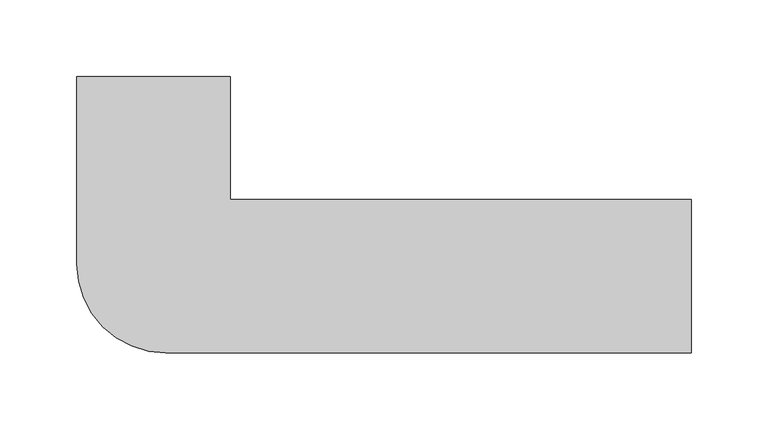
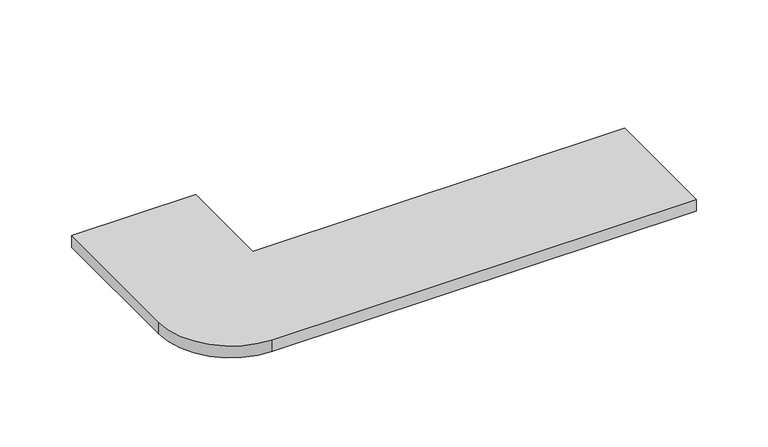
"""IFC4 building model written with IfcOpenShell, lengths in millimetres: proxy geometry, Zanquin Recto 42.3x17.5 : Exagres_Roca_Polar_Zanquin_Rect_Der."""

import ifcopenshell
import ifcopenshell.guid

model = None  # the IFC model being written
_history = None  # IfcOwnerHistory: only IFC2X3 demands one
_inside = {}  # id of a spatial element -> (the spatial element, [elements in it])
_under = {}  # id of a project, library or spatial element -> (it, [spatial elements below it])
_declared = {}  # id of a project -> (the project, [libraries it declares])
_typed = {}  # id of a type object -> (the type object, [elements of that type])
_made_of = {}  # id of a material, layer set ... -> (it, [elements and type objects made of it])


def new_model(schema):
    """Start an empty IFC model of exactly this schema.

    Asked for "IFC4X3", IfcOpenShell would pick the latest addendum, in which some entities
    have other attributes; the version numbers below select the first issue.
    IFC2X3 requires an IfcOwnerHistory on every rooted entity: one is made here for all.
    """
    global model, _history
    if schema == "IFC4X3":
        model = ifcopenshell.file(schema_version=(4, 3, 0, 0))
    else:
        model = ifcopenshell.file(schema=schema)
    _inside.clear()
    _under.clear()
    _declared.clear()
    _typed.clear()
    _made_of.clear()
    _history = None
    if model.schema == "IFC2X3":
        org = make("IfcOrganization", Name="unknown")
        user = make(
            "IfcPersonAndOrganization",
            ThePerson=make("IfcPerson", FamilyName="unknown"),
            TheOrganization=org,
        )
        app = make(
            "IfcApplication",
            ApplicationDeveloper=org,
            Version="unknown",
            ApplicationFullName="unknown",
            ApplicationIdentifier="unknown",
        )
        _history = make(
            "IfcOwnerHistory",
            OwningUser=user,
            OwningApplication=app,
            ChangeAction="ADDED",
            CreationDate=0,
        )
    return model


def make(cls, **values):
    """One entity of the class cls with the attributes given. An attribute that is None is left unset."""
    return model.create_entity(
        cls, **{name: value for name, value in values.items() if value is not None}
    )


def rooted(cls, **values):
    """An entity with a GlobalId (a new one), such as an element, a storey or a relation."""
    return make(cls, GlobalId=ifcopenshell.guid.new(), OwnerHistory=_history, **values)


def si_unit(unit_type, name, prefix=None):
    """IfcSIUnit, for example si_unit("LENGTHUNIT", "METRE", prefix="MILLI")."""
    return make("IfcSIUnit", UnitType=unit_type, Prefix=prefix, Name=name)


def assignment(units):
    """IfcUnitAssignment: the units of a project."""
    return None if units is None else make("IfcUnitAssignment", Units=units)


def point(xyz):
    """IfcCartesianPoint."""
    return None if xyz is None else make("IfcCartesianPoint", Coordinates=xyz)


def direction(xyz):
    """IfcDirection."""
    return None if xyz is None else make("IfcDirection", DirectionRatios=xyz)


def frame(location, z_axis=None, x_axis=None):
    """IfcAxis2Placement3D, a coordinate frame: its origin and axes. An axis left out is left unset."""
    return make(
        "IfcAxis2Placement3D",
        Location=point(location),
        Axis=direction(z_axis),
        RefDirection=direction(x_axis),
    )


def frame_2d(location, x_axis=None):
    """IfcAxis2Placement2D, a coordinate frame in the plane: its origin and x axis."""
    return make(
        "IfcAxis2Placement2D", Location=point(location), RefDirection=direction(x_axis)
    )


def origin():
    """The frame at (0, 0, 0) with its axes left unset."""
    return frame((0.0, 0.0, 0.0))


def origin_with_axes():
    """The frame at (0, 0, 0) with the z axis (0, 0, 1) and the x axis (1, 0, 0) written out."""
    return frame((0.0, 0.0, 0.0), z_axis=(0.0, 0.0, 1.0), x_axis=(1.0, 0.0, 0.0))


def place(relative_to, where):
    """IfcLocalPlacement: puts the frame where relative to a parent placement (None: the world)."""
    return make(
        "IfcLocalPlacement", PlacementRelTo=relative_to, RelativePlacement=where
    )


def context(
    kind, dimensions, precision=None, world=None, true_north=None, identifier=None
):
    """IfcGeometricRepresentationContext, for example the 3D "Model" context."""
    return make(
        "IfcGeometricRepresentationContext",
        ContextIdentifier=identifier,
        ContextType=kind,
        CoordinateSpaceDimension=dimensions,
        Precision=precision,
        WorldCoordinateSystem=world,
        TrueNorth=true_north,
    )


def project(units=None, contexts=None):
    """IfcProject with its units and contexts."""
    return rooted(
        "IfcProject",
        Name="project",
        RepresentationContexts=contexts,
        UnitsInContext=assignment(units),
    )


def spatial(cls, under=None, at=None, **own):
    """A site, building, storey or space (cls), placed at a placement, below another one or the project."""
    s = rooted(cls, ObjectPlacement=at, **own)
    if under is not None:
        _under.setdefault(under.id(), (under, []))[1].append(s)
    return s


def polyline(points):
    """IfcPolyline through the points."""
    return make("IfcPolyline", Points=[point(p) for p in points])


def circle_curve(where, radius):
    """IfcCircle in the frame where."""
    return make("IfcCircle", Position=where, Radius=radius)


def trimmed(basis, trim1, trim2, sense, master):
    """IfcTrimmedCurve: the piece of a basis curve between two trims."""
    return make(
        "IfcTrimmedCurve",
        BasisCurve=basis,
        Trim1=trim1,
        Trim2=trim2,
        SenseAgreement=sense,
        MasterRepresentation=master,
    )


def segment(curve, same_sense, transition):
    """IfcCompositeCurveSegment."""
    return make(
        "IfcCompositeCurveSegment",
        Transition=transition,
        SameSense=same_sense,
        ParentCurve=curve,
    )


def composite_curve(segments, self_intersect=None):
    """IfcCompositeCurve: segments joined end to end."""
    return make("IfcCompositeCurve", Segments=segments, SelfIntersect=self_intersect)


def outline(outer, holes=None, kind="AREA"):
    """IfcArbitraryClosedProfileDef: a profile drawn as a closed curve; with holes, ...WithVoids."""
    if holes is None:
        return make("IfcArbitraryClosedProfileDef", ProfileType=kind, OuterCurve=outer)
    return make(
        "IfcArbitraryProfileDefWithVoids",
        ProfileType=kind,
        OuterCurve=outer,
        InnerCurves=holes,
    )


def extrude(swept, where, along, depth):
    """IfcExtrudedAreaSolid: the profile swept, set in the frame where, extruded along a direction by depth."""
    return make(
        "IfcExtrudedAreaSolid",
        SweptArea=swept,
        Position=where,
        ExtrudedDirection=direction(along),
        Depth=depth,
    )


def shape(context_of_items, identifier, shape_type, items):
    """IfcShapeRepresentation: the items that make up one representation, for example the "Body"."""
    return make(
        "IfcShapeRepresentation",
        ContextOfItems=context_of_items,
        RepresentationIdentifier=identifier,
        RepresentationType=shape_type,
        Items=items,
    )


def source(mapping_origin, context_of_items, identifier, shape_type, items):
    """IfcRepresentationMap: a shape defined once, which mapped items show again and again."""
    return make(
        "IfcRepresentationMap",
        MappingOrigin=mapping_origin,
        MappedRepresentation=shape(context_of_items, identifier, shape_type, items),
    )


def transform(
    local_origin,
    x_axis=None,
    y_axis=None,
    z_axis=None,
    scale=None,
    scale2=None,
    scale3=None,
    uniform=True,
):
    """IfcCartesianTransformationOperator3D, or its non-uniform kind. x_axis, y_axis, z_axis: its Axis1, 2, 3."""
    if uniform:
        return make(
            "IfcCartesianTransformationOperator3D",
            Axis1=direction(x_axis),
            Axis2=direction(y_axis),
            LocalOrigin=point(local_origin),
            Scale=scale,
            Axis3=direction(z_axis),
        )
    return make(
        "IfcCartesianTransformationOperator3DnonUniform",
        Axis1=direction(x_axis),
        Axis2=direction(y_axis),
        LocalOrigin=point(local_origin),
        Scale=scale,
        Axis3=direction(z_axis),
        Scale2=scale2,
        Scale3=scale3,
    )


def mapped(mapping_source, mapping_target):
    """IfcMappedItem: shows the shape of a source again, moved by a transform."""
    return make(
        "IfcMappedItem", MappingSource=mapping_source, MappingTarget=mapping_target
    )


def made_of(thing, what):
    """Note that an element or type object is made of a material, layer set ...; save() writes the relation."""
    if what is not None:
        _made_of.setdefault(what.id(), (what, []))[1].append(thing)
    return thing


def element(
    cls,
    number,
    at=None,
    inside=None,
    cuts=None,
    type_object=None,
    material=None,
    context=None,
    identifier="Body",
    shape_type=None,
    held_by="IfcProductDefinitionShape",
    body=None,
    shapes=None,
    **own,
):
    """One element of the class cls, such as IfcWall. Its Tag is "e" and its number.

    at: its placement. inside: the storey or other place that contains it. cuts: it is an
    opening in that element (IfcRelVoidsElement). A single representation is given by context,
    identifier, shape_type and body (its items); several are given by shapes. held_by: the class
    of the entity that holds the representations. save() writes the other relations.
    """
    e = rooted(cls, Tag="e%d" % number, ObjectPlacement=at, **own)
    if body is not None:
        shapes = [shape(context, identifier, shape_type, body)]
    if shapes is not None:
        e.Representation = make(held_by, Representations=shapes)
    if inside is not None:
        _inside.setdefault(inside.id(), (inside, []))[1].append(e)
    if cuts is not None:
        rooted(
            "IfcRelVoidsElement", RelatingBuildingElement=cuts, RelatedOpeningElement=e
        )
    if type_object is not None:
        _typed.setdefault(type_object.id(), (type_object, []))[1].append(e)
    return made_of(e, material)


def aggregate(whole, parts):
    """IfcRelAggregates: a whole, such as a stair, and the parts it consists of."""
    return rooted("IfcRelAggregates", RelatingObject=whole, RelatedObjects=parts)


def save(model, path):
    """Write the relations noted so far, then the file.

    IfcRelAggregates (storeys below a building ...), IfcRelContainedInSpatialStructure (elements
    in a storey), IfcRelDefinesByType, IfcRelAssociatesMaterial and IfcRelDeclares: one each for
    every whole, place, type object, material and project.
    """
    for whole, parts in _under.values():
        aggregate(whole, parts)
    for where, things in _inside.values():
        rooted(
            "IfcRelContainedInSpatialStructure",
            RelatedElements=things,
            RelatingStructure=where,
        )
    for kind, things in _typed.values():
        rooted("IfcRelDefinesByType", RelatedObjects=things, RelatingType=kind)
    for what, things in _made_of.values():
        rooted("IfcRelAssociatesMaterial", RelatedObjects=things, RelatingMaterial=what)
    for by, libraries in _declared.values():
        rooted("IfcRelDeclares", RelatingContext=by, RelatedDefinitions=libraries)
    model.write(path)


def generic_models_6290b49e(model_context):
    return source(origin(), model_context, "Body", "SweptSolid", [
        extrude(outline(composite_curve([segment(polyline([(300.0, 0.0), (300.0, -100.0), (-42.0, -100.0)]), True, "CONTINUOUS"), segment(trimmed(circle_curve(frame_2d((-42.0, -42.0)), 58.0), [point((-42.0, -100.0))], [point((-100.0, -42.0))], False, "CARTESIAN"), True, "CONTINUOUS"), segment(polyline([(-100.0, -42.0), (-100.0, 80.0), (0.0, 80.0), (0.0, 0.0), (300.0, 0.0)]), True, "CONTINUOUS")], self_intersect=False)), origin_with_axes(), (0.0, 0.0, 1.0), 10.0),
    ])


if __name__ == "__main__":
    model = new_model("IFC4")
    model_context = context("Model", 3, world=origin())
    ifc_project = project(units=[si_unit("LENGTHUNIT", "METRE", prefix="MILLI")], contexts=[model_context])
    site = spatial("IfcSite", under=ifc_project)
    building = spatial("IfcBuilding", under=site)
    placement = place(None, origin())
    generic_models_shape = generic_models_6290b49e(model_context)
    element("IfcBuildingElementProxy", 1, Name="Zanquin Recto 42.3x17.5 : Exagres_Roca_Polar_Zanquin_Rect_Der", ObjectType="Zanquin Recto 42.3x17.5 : Exagres_Roca_Polar_Zanquin_Rect_Der", at=placement, inside=building, context=model_context, shape_type="MappedRepresentation", body=[
        mapped(generic_models_shape, transform((0.0, 0.0, 0.0), x_axis=(1.0, 0.0, 0.0), y_axis=(0.0, 1.0, 0.0), z_axis=(0.0, 0.0, 1.0))),
    ])
    save(model, "model.ifc")
